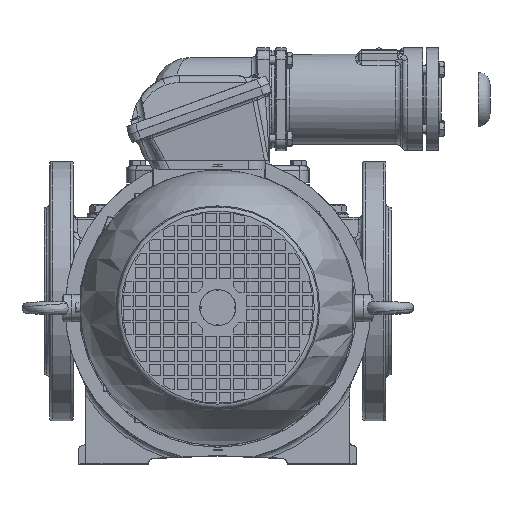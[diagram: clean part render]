
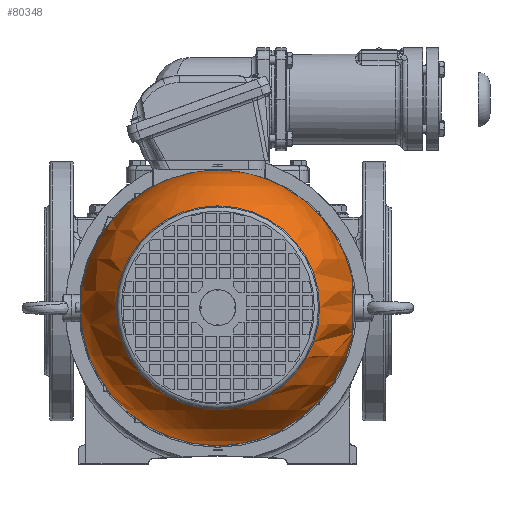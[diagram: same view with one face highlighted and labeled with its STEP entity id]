
A CAD part, top view. The second image highlights one B-rep face of the part: STEP entity #80348.
In plain terms, the highlighted spherical face has radius 99.054 mm.
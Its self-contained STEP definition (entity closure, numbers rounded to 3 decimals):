
#1089=SPHERICAL_SURFACE('',#85598,99.054);
#9698=FACE_BOUND('',#16363,.T.);
#11511=FACE_OUTER_BOUND('',#16362,.T.);
#16362=EDGE_LOOP('',(#61193,#61194,#61195,#61196));
#16363=EDGE_LOOP('',(#61197,#61198));
#31377=CIRCLE('',#84268,99.05);
#31379=CIRCLE('',#84270,99.05);
#31380=CIRCLE('',#84271,99.05);
#31534=CIRCLE('',#84994,21.153);
#31555=CIRCLE('',#85596,73.309);
#31556=CIRCLE('',#85597,73.309);
#35036=VERTEX_POINT('',#123955);
#35037=VERTEX_POINT('',#123956);
#35040=VERTEX_POINT('',#123965);
#35041=VERTEX_POINT('',#123970);
#36854=VERTEX_POINT('',#130990);
#36855=VERTEX_POINT('',#130992);
#42825=EDGE_CURVE('',#35036,#35037,#31377,.T.);
#42829=EDGE_CURVE('',#35041,#35040,#31379,.T.);
#42830=EDGE_CURVE('',#35037,#35041,#31380,.T.);
#44479=EDGE_CURVE('',#35040,#35036,#31534,.T.);
#45638=EDGE_CURVE('',#36854,#36855,#31555,.T.);
#45639=EDGE_CURVE('',#36855,#36854,#31556,.T.);
#61193=ORIENTED_EDGE('',*,*,#42825,.T.);
#61194=ORIENTED_EDGE('',*,*,#42830,.T.);
#61195=ORIENTED_EDGE('',*,*,#42829,.T.);
#61196=ORIENTED_EDGE('',*,*,#44479,.T.);
#61197=ORIENTED_EDGE('',*,*,#45639,.F.);
#61198=ORIENTED_EDGE('',*,*,#45638,.F.);
#80348=ADVANCED_FACE('',(#11511,#9698),#1089,.T.);
#84268=AXIS2_PLACEMENT_3D('',#123957,#92653,#92654);
#84270=AXIS2_PLACEMENT_3D('',#123971,#92657,#92658);
#84271=AXIS2_PLACEMENT_3D('',#123972,#92659,#92660);
#84994=AXIS2_PLACEMENT_3D('',#128625,#95203,#95204);
#85596=AXIS2_PLACEMENT_3D('',#130993,#97541,#97542);
#85597=AXIS2_PLACEMENT_3D('',#130994,#97543,#97544);
#85598=AXIS2_PLACEMENT_3D('',#130995,#97545,#97546);
#92653=DIRECTION('center_axis',(0.,0.,
1.));
#92654=DIRECTION('ref_axis',(0.,1.,0.));
#92657=DIRECTION('center_axis',(0.,0.,
1.));
#92658=DIRECTION('ref_axis',(0.,1.,0.));
#92659=DIRECTION('center_axis',(0.,0.,
1.));
#92660=DIRECTION('ref_axis',(0.,1.,0.));
#95203=DIRECTION('center_axis',(-1.,0.,0.));
#95204=DIRECTION('ref_axis',(0.,1.,0.));
#97541=DIRECTION('center_axis',(0.,0.,
1.));
#97542=DIRECTION('ref_axis',(0.,1.,0.));
#97543=DIRECTION('center_axis',(0.,0.,
1.));
#97544=DIRECTION('ref_axis',(0.,1.,0.));
#97545=DIRECTION('center_axis',(0.,-1.,0.));
#97546=DIRECTION('ref_axis',(-1.,0.,0.));
#123955=CARTESIAN_POINT('',(96.769,21.135,315.764));
#123956=CARTESIAN_POINT('',(0.,99.05,315.764));
#123957=CARTESIAN_POINT('Origin',(0.,0.,
315.764));
#123965=CARTESIAN_POINT('',(96.769,-21.135,315.764));
#123970=CARTESIAN_POINT('',(0.,-99.05,315.764));
#123971=CARTESIAN_POINT('Origin',(0.,0.,
315.764));
#123972=CARTESIAN_POINT('Origin',(0.,0.,
315.764));
#128625=CARTESIAN_POINT('Origin',(96.769,0.,
314.9));
#130990=CARTESIAN_POINT('',(0.,-73.309,381.515));
#130992=CARTESIAN_POINT('',(0.,73.309,381.515));
#130993=CARTESIAN_POINT('Origin',(0.,0.,
381.515));
#130994=CARTESIAN_POINT('Origin',(0.,0.,
381.515));
#130995=CARTESIAN_POINT('Origin',(0.,0.,
314.9));
